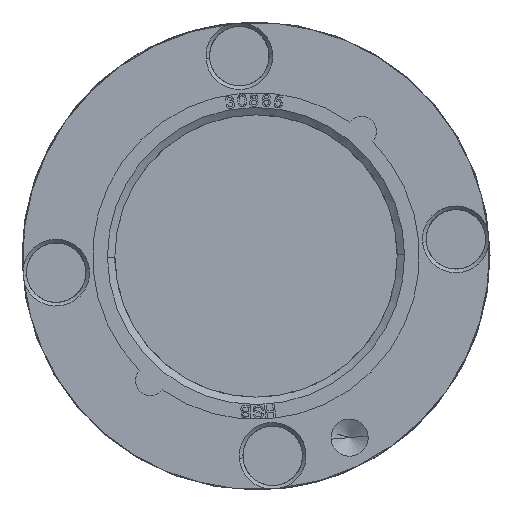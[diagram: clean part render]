
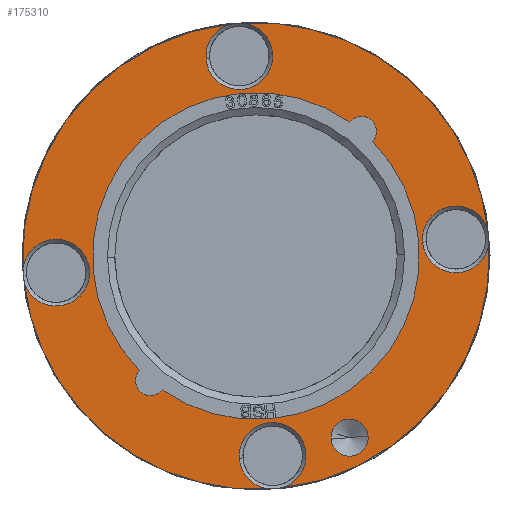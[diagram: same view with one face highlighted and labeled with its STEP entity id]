
A CAD part, left-side view. The second image highlights one B-rep face of the part: STEP entity #175310.
In plain terms, the highlighted planar face has unit normal (-1, 0, 0).
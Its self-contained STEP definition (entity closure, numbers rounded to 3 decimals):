
#8330=CARTESIAN_POINT('',(0.,-21.431,
-6.854));
#8340=VERTEX_POINT('',#8330);
#8370=CARTESIAN_POINT('',(0.,-25.717,-8.225));
#8380=DIRECTION('',(-1.,0.,0.));
#8390=DIRECTION('',(0.,0.952,0.305));
#8400=AXIS2_PLACEMENT_3D('',#8370,#8380,#8390);
#8410=CIRCLE('',#8400,4.5);
#8420=CARTESIAN_POINT('',(0.,-30.202,-8.592));
#8430=VERTEX_POINT('',#8420);
#8440=EDGE_CURVE('',#8430,#8340,#8410,.T.);
#172970=CARTESIAN_POINT('',(0.,-10.529,29.582));
#172980=VERTEX_POINT('',#172970);
#172990=CARTESIAN_POINT('',(0.,-8.592,30.202));
#173000=VERTEX_POINT('',#172990);
#173030=CARTESIAN_POINT('',(0.,0.,0.));
#173040=DIRECTION('',(-1.,0.,0.));
#173050=DIRECTION('',(0.,0.889,-0.458));
#173060=AXIS2_PLACEMENT_3D('',#173030,#173040,#173050);
#173070=CIRCLE('',#173060,31.4);
#173080=CARTESIAN_POINT('',(0.,29.582,
10.529));
#173090=VERTEX_POINT('',#173080);
#173100=EDGE_CURVE('',#173000,#173090,#173070,.T.);
#173510=CARTESIAN_POINT('',(0.,30.202,
8.592));
#173520=VERTEX_POINT('',#173510);
#173550=CARTESIAN_POINT('',(0.,27.912,-14.384));
#173560=VERTEX_POINT('',#173550);
#173570=EDGE_CURVE('',#173520,#173560,#173070,.T.);
#173700=CARTESIAN_POINT('',(0.,-27.912,14.384));
#173710=VERTEX_POINT('',#173700);
#173740=EDGE_CURVE('',#173710,#172980,#173070,.T.);
#173900=CARTESIAN_POINT('',(0.,-3.939,
27.088));
#173910=VERTEX_POINT('',#173900);
#173940=CARTESIAN_POINT('',(0.,-8.225,25.717));
#173950=DIRECTION('',(-1.,0.,0.));
#173960=DIRECTION('',(0.,0.952,0.305));
#173970=AXIS2_PLACEMENT_3D('',#173940,#173950,#173960);
#173980=CIRCLE('',#173970,4.5);
#173990=EDGE_CURVE('',#173000,#173910,#173980,.T.);
#174020=CARTESIAN_POINT('',(0.,-12.511,
24.346));
#174030=VERTEX_POINT('',#174020);
#174040=EDGE_CURVE('',#174030,#172980,#173980,.T.);
#174280=CARTESIAN_POINT('',(0.,-29.035,-10.095));
#174290=DIRECTION('',(-1.,0.,-0.));
#174300=DIRECTION('',(0.,0.889,-0.458));
#174310=AXIS2_PLACEMENT_3D('',#174280,#174290,#174300);
#174320=PLANE('',#174310);
#174330=CARTESIAN_POINT('',(0.,-2.284,-27.405));
#174340=DIRECTION('',(-1.,0.,0.));
#174350=DIRECTION('',(0.,0.952,0.305));
#174360=AXIS2_PLACEMENT_3D('',#174330,#174340,#174350);
#174370=CIRCLE('',#174360,2.5);
#174380=CARTESIAN_POINT('',(0.,0.097,-26.643));
#174390=VERTEX_POINT('',#174380);
#174400=CARTESIAN_POINT('',(0.,-4.665,-28.167));
#174410=VERTEX_POINT('',#174400);
#174420=EDGE_CURVE('',#174390,#174410,#174370,.T.);
#174430=ORIENTED_EDGE('',*,*,#174420,.F.);
#174440=EDGE_CURVE('',#174410,#174390,#174370,.T.);
#174450=ORIENTED_EDGE('',*,*,#174440,.F.);
#174460=EDGE_LOOP('',(#174450,#174430));
#174470=FACE_BOUND('',#174460,.T.);
#174480=CARTESIAN_POINT('',(0.,19.556,-10.078));
#174490=DIRECTION('',(-1.,0.,0.));
#174500=DIRECTION('',(0.,-0.889,0.458));
#174510=AXIS2_PLACEMENT_3D('',#174480,#174490,#174500);
#174520=CIRCLE('',#174510,2.);
#174530=CARTESIAN_POINT('',(0.,20.39,-8.26));
#174540=VERTEX_POINT('',#174530);
#174550=CARTESIAN_POINT('',(0.,18.56,-11.812));
#174560=VERTEX_POINT('',#174550);
#174570=EDGE_CURVE('',#174540,#174560,#174520,.T.);
#174580=ORIENTED_EDGE('',*,*,#174570,.F.);
#174590=CARTESIAN_POINT('',(0.,0.,0.));
#174600=DIRECTION('',(-1.,0.,0.));
#174610=DIRECTION('',(0.,-0.305,0.952));
#174620=AXIS2_PLACEMENT_3D('',#174590,#174600,#174610);
#174630=CIRCLE('',#174620,22.);
#174640=CARTESIAN_POINT('',(0.,-20.39,8.26));
#174650=VERTEX_POINT('',#174640);
#174660=EDGE_CURVE('',#174560,#174650,#174630,.T.);
#174670=ORIENTED_EDGE('',*,*,#174660,.F.);
#174680=CARTESIAN_POINT('',(0.,-19.556,10.078));
#174690=DIRECTION('',(-1.,0.,0.));
#174700=DIRECTION('',(0.,-0.889,0.458));
#174710=AXIS2_PLACEMENT_3D('',#174680,#174690,#174700);
#174720=CIRCLE('',#174710,2.);
#174730=CARTESIAN_POINT('',(0.,-18.56,11.812));
#174740=VERTEX_POINT('',#174730);
#174750=EDGE_CURVE('',#174650,#174740,#174720,.T.);
#174760=ORIENTED_EDGE('',*,*,#174750,.F.);
#174770=EDGE_CURVE('',#174740,#174540,#174630,.T.);
#174780=ORIENTED_EDGE('',*,*,#174770,.F.);
#174790=EDGE_LOOP('',(#174780,#174760,#174670,#174580));
#174800=FACE_BOUND('',#174790,.T.);
#174810=ORIENTED_EDGE('',*,*,#173990,.F.);
#174820=EDGE_CURVE('',#173910,#174030,#173980,.T.);
#174830=ORIENTED_EDGE('',*,*,#174820,.F.);
#174840=ORIENTED_EDGE('',*,*,#174040,.F.);
#174850=ORIENTED_EDGE('',*,*,#173740,.T.);
#174860=EDGE_CURVE('',#8430,#173710,#173070,.T.);
#174870=ORIENTED_EDGE('',*,*,#174860,.T.);
#174880=ORIENTED_EDGE('',*,*,#8440,.F.);
#174890=CARTESIAN_POINT('',(0.,-29.582,-10.529));
#174900=VERTEX_POINT('',#174890);
#174910=EDGE_CURVE('',#8340,#174900,#8410,.T.);
#174920=ORIENTED_EDGE('',*,*,#174910,.F.);
#174930=CARTESIAN_POINT('',(0.,8.592,
-30.202));
#174940=VERTEX_POINT('',#174930);
#174950=EDGE_CURVE('',#174940,#174900,#173070,.T.);
#174960=ORIENTED_EDGE('',*,*,#174950,.T.);
#174970=CARTESIAN_POINT('',(0.,8.225,-25.717));
#174980=DIRECTION('',(-1.,0.,0.));
#174990=DIRECTION('',(0.,0.952,0.305));
#175000=AXIS2_PLACEMENT_3D('',#174970,#174980,#174990);
#175010=CIRCLE('',#175000,4.5);
#175020=CARTESIAN_POINT('',(0.,3.939,
-27.088));
#175030=VERTEX_POINT('',#175020);
#175040=EDGE_CURVE('',#174940,#175030,#175010,.T.);
#175050=ORIENTED_EDGE('',*,*,#175040,.F.);
#175060=CARTESIAN_POINT('',(0.,12.511,
-24.346));
#175070=VERTEX_POINT('',#175060);
#175080=EDGE_CURVE('',#175030,#175070,#175010,.T.);
#175090=ORIENTED_EDGE('',*,*,#175080,.F.);
#175100=CARTESIAN_POINT('',(0.,10.529,
-29.582));
#175110=VERTEX_POINT('',#175100);
#175120=EDGE_CURVE('',#175070,#175110,#175010,.T.);
#175130=ORIENTED_EDGE('',*,*,#175120,.F.);
#175140=EDGE_CURVE('',#173560,#175110,#173070,.T.);
#175150=ORIENTED_EDGE('',*,*,#175140,.T.);
#175160=ORIENTED_EDGE('',*,*,#173570,.T.);
#175170=CARTESIAN_POINT('',(0.,25.717,8.225));
#175180=DIRECTION('',(-1.,0.,0.));
#175190=DIRECTION('',(0.,0.952,0.305));
#175200=AXIS2_PLACEMENT_3D('',#175170,#175180,#175190);
#175210=CIRCLE('',#175200,4.5);
#175220=CARTESIAN_POINT('',(0.,21.431,
6.854));
#175230=VERTEX_POINT('',#175220);
#175240=EDGE_CURVE('',#173520,#175230,#175210,.T.);
#175250=ORIENTED_EDGE('',*,*,#175240,.F.);
#175260=EDGE_CURVE('',#175230,#173090,#175210,.T.);
#175270=ORIENTED_EDGE('',*,*,#175260,.F.);
#175280=ORIENTED_EDGE('',*,*,#173100,.T.);
#175290=EDGE_LOOP('',(#175280,#175270,#175250,#175160,#175150,#175130,
#175090,#175050,#174960,#174920,#174880,#174870,#174850,#174840,#174830,
#174810));
#175300=FACE_OUTER_BOUND('',#175290,.T.);
#175310=ADVANCED_FACE('',(#174470,#174800,#175300),#174320,.T.);
